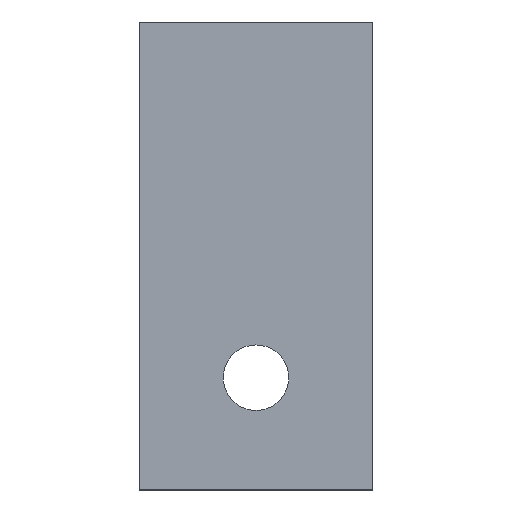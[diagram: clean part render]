
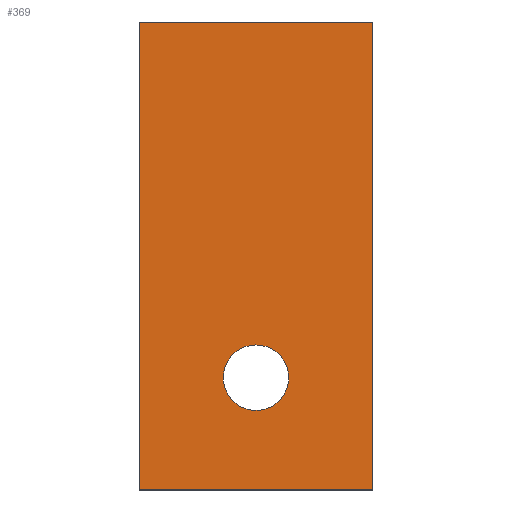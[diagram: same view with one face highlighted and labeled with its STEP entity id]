
A CAD part, front view. The second image highlights one B-rep face of the part: STEP entity #369.
In plain terms, the highlighted planar face has unit normal (0, -1, 0).
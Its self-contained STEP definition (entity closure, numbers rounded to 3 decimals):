
#19=FACE_BOUND('',#71,.T.);
#28=PLANE('',#420);
#48=FACE_OUTER_BOUND('',#70,.T.);
#70=EDGE_LOOP('',(#320,#321,#322,#323));
#71=EDGE_LOOP('',(#324));
#93=LINE('',#670,#124);
#102=LINE('',#685,#133);
#105=LINE('',#691,#136);
#106=LINE('',#693,#137);
#124=VECTOR('',#500,10.);
#133=VECTOR('',#513,10.);
#136=VECTOR('',#518,10.);
#137=VECTOR('',#521,10.);
#153=CIRCLE('',#411,1.75);
#181=VERTEX_POINT('',#656);
#185=VERTEX_POINT('',#668);
#186=VERTEX_POINT('',#669);
#190=VERTEX_POINT('',#681);
#192=VERTEX_POINT('',#688);
#222=EDGE_CURVE('',#181,#181,#153,.T.);
#228=EDGE_CURVE('',#185,#186,#93,.T.);
#237=EDGE_CURVE('',#190,#185,#102,.T.);
#240=EDGE_CURVE('',#192,#190,#105,.T.);
#241=EDGE_CURVE('',#192,#186,#106,.T.);
#320=ORIENTED_EDGE('',*,*,#240,.T.);
#321=ORIENTED_EDGE('',*,*,#237,.T.);
#322=ORIENTED_EDGE('',*,*,#228,.T.);
#323=ORIENTED_EDGE('',*,*,#241,.F.);
#324=ORIENTED_EDGE('',*,*,#222,.T.);
#369=ADVANCED_FACE('',(#48,#19),#28,.T.);
#411=AXIS2_PLACEMENT_3D('',#657,#486,#487);
#420=AXIS2_PLACEMENT_3D('',#692,#519,#520);
#486=DIRECTION('center_axis',(0.,1.,0.));
#487=DIRECTION('ref_axis',(0.,0.,-1.));
#500=DIRECTION('',(-1.,0.,0.));
#513=DIRECTION('',(0.,0.,1.));
#518=DIRECTION('',(1.,0.,0.));
#519=DIRECTION('center_axis',(0.,-1.,0.));
#520=DIRECTION('ref_axis',(0.,0.,-1.));
#521=DIRECTION('',(0.,0.,1.));
#656=CARTESIAN_POINT('',(-30.75,-10.,-7.25));
#657=CARTESIAN_POINT('Origin',(-30.75,-10.,-9.));
#668=CARTESIAN_POINT('',(-24.5,-10.,10.));
#669=CARTESIAN_POINT('',(-37.,-10.,10.));
#670=CARTESIAN_POINT('',(-30.75,-10.,10.));
#681=CARTESIAN_POINT('',(-24.5,-10.,-15.));
#685=CARTESIAN_POINT('',(-24.5,-10.,-2.952));
#688=CARTESIAN_POINT('',(-37.,-10.,-15.));
#691=CARTESIAN_POINT('',(-30.75,-10.,-15.));
#692=CARTESIAN_POINT('Origin',(-30.75,-10.,-8.581));
#693=CARTESIAN_POINT('',(-37.,-10.,-2.952));
